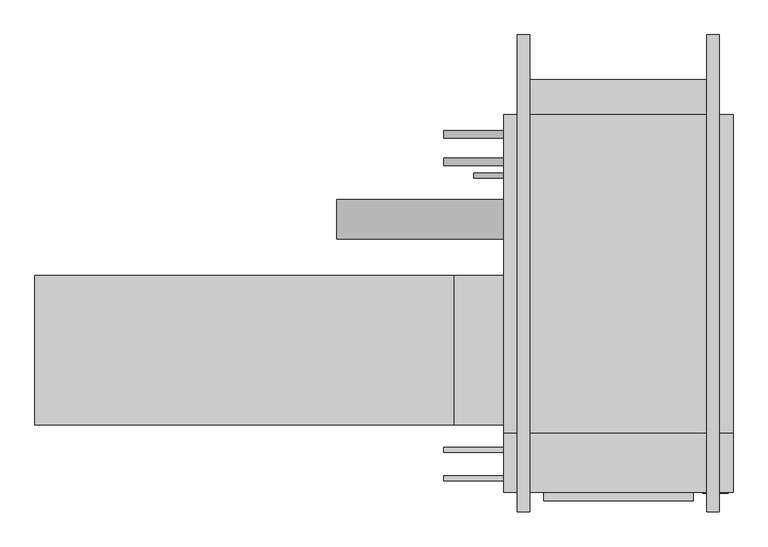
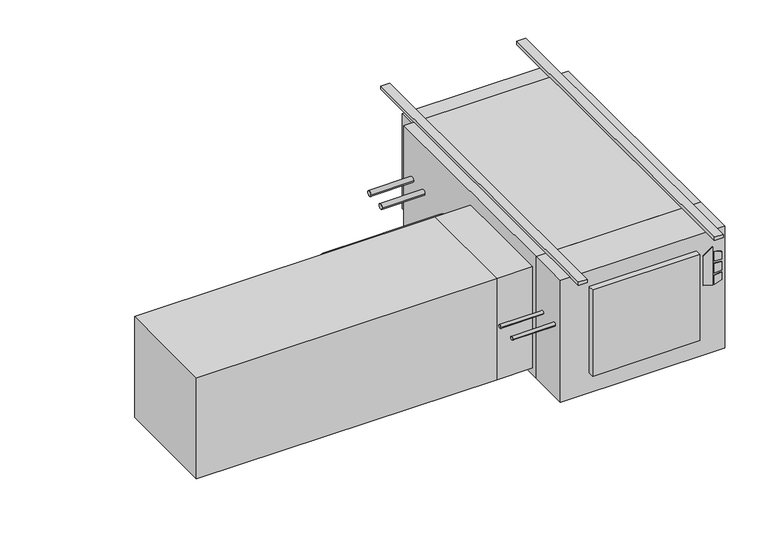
"""IFC4 building model written with IfcOpenShell, lengths in millimetres: proxy geometry."""

from ifc_helpers import new_model, si_unit, point, frame, frame_2d, origin, origin_with_axes, place, context, project, spatial, polyline, circle_curve, trimmed, segment, composite_curve, outline, extrude, source, transform, mapped, element, save


def mechanical_equipment_86c30c7f(model_context):
    return source(origin(), model_context, "Body", "SweptSolid", [
        extrude(outline(polyline([(-193.2519297, 366.7868862), (-203.2, 398.9602728), (-61.0290756, 398.9602728), (-84.0510817, 366.7868862), (-193.2519297, 366.7868862)])), frame((0.0, -797.052, 0.0), z_axis=(0.0, 1.0, 0.0), x_axis=(0.0, 0.0, 1.0)), (0.0, 0.0, 1.0), 3.175),
        extrude(outline(polyline([(-114.2526443, 405.7186058), (-117.4550368, 431.8), (-88.2261958, 431.8), (-80.1617807, 405.7186058), (-114.2526443, 405.7186058)])), frame((0.0, -797.052, 0.0), z_axis=(0.0, 1.0, 0.0), x_axis=(0.0, 0.0, 1.0)), (0.0, 0.0, 1.0), 3.175),
        extrude(outline(polyline([(-166.1161712, 431.8), (-169.7816721, 405.7186058), (-203.2, 405.7186058), (-194.5657628, 431.8), (-166.1161712, 431.8)])), frame((0.0, -797.052, 0.0), z_axis=(0.0, 1.0, 0.0), x_axis=(0.0, 0.0, 1.0)), (0.0, 0.0, 1.0), 3.175),
        extrude(outline(polyline([(-126.8010097, 431.8), (-124.5191834, 405.7186058), (-160.4567319, 405.7186058), (-157.7154669, 431.8), (-126.8010097, 431.8)])), frame((0.0, -797.052, 0.0), z_axis=(0.0, 1.0, 0.0), x_axis=(0.0, 0.0, 1.0)), (0.0, 0.0, 1.0), 3.175),
        extrude(outline(polyline([(444.5, -793.877), (-139.7, -793.877), (-139.7, -644.525), (444.5, -644.525), (444.5, -793.877)])), frame((0.0, 0.0, -457.2), z_axis=(0.0, 0.0, 1.0), x_axis=(1.0, 0.0, 0.0)), (0.0, 0.0, 1.0), 457.2),
        extrude(outline(polyline([(342.9, -816.229), (-38.1, -816.229), (-38.1, -793.877), (342.9, -793.877), (342.9, -816.229)])), frame((0.0, 0.0, -381.0), z_axis=(0.0, 0.0, 1.0), x_axis=(1.0, 0.0, 0.0)), (0.0, 0.0, 1.0), 323.85),
        extrude(outline(polyline([(-1333.5, -622.3), (-1333.5, -241.3), (-266.7, -241.3), (-266.7, -622.3), (-1333.5, -622.3)])), frame((0.0, 0.0, -431.8), z_axis=(0.0, 0.0, 1.0), x_axis=(1.0, 0.0, 0.0)), (0.0, 0.0, 1.0), 381.0),
        extrude(outline(polyline([(-139.7, -241.3), (-139.7, -622.3), (-266.7, -622.3), (-266.7, -241.3), (-139.7, -241.3)])), frame((0.0, 0.0, -431.8), z_axis=(0.0, 0.0, 1.0), x_axis=(1.0, 0.0, 0.0)), (0.0, 0.0, 1.0), 381.0),
        extrude(outline(composite_curve([segment(trimmed(circle_curve(frame_2d((-758.825, -184.15)), 6.35), [point((-765.175, -184.15))], [point((-752.475, -184.15))], False, "CARTESIAN"), True, "CONTINUOUS"), segment(trimmed(circle_curve(frame_2d((-758.825, -184.15)), 6.35), [point((-752.475, -184.15))], [point((-765.175, -184.15))], False, "CARTESIAN"), True, "CONTINUOUS")], self_intersect=False)), frame((-292.1, 0.0, 0.0), z_axis=(1.0, 0.0, 0.0), x_axis=(0.0, 1.0, 0.0)), (0.0, 0.0, 1.0), 152.4),
        extrude(outline(composite_curve([segment(trimmed(circle_curve(frame_2d((-685.8, -184.15)), 6.35), [point((-692.15, -184.15))], [point((-679.45, -184.15))], False, "CARTESIAN"), True, "CONTINUOUS"), segment(trimmed(circle_curve(frame_2d((-685.8, -184.15)), 6.35), [point((-679.45, -184.15))], [point((-692.15, -184.15))], False, "CARTESIAN"), True, "CONTINUOUS")], self_intersect=False)), frame((-292.1, 0.0, 0.0), z_axis=(1.0, 0.0, 0.0), x_axis=(0.0, 1.0, 0.0)), (0.0, 0.0, 1.0), 152.4),
        extrude(outline(composite_curve([segment(trimmed(circle_curve(frame_2d((-98.4896516, -228.6360165)), 50.8), [point((-149.2896516, -228.6360165))], [point((-47.6896516, -228.6360165))], False, "CARTESIAN"), True, "CONTINUOUS"), segment(trimmed(circle_curve(frame_2d((-98.4896516, -228.6360165)), 50.8), [point((-47.6896516, -228.6360165))], [point((-149.2896516, -228.6360165))], False, "CARTESIAN"), True, "CONTINUOUS")], self_intersect=False)), frame((-565.15, 0.0, 0.0), z_axis=(1.0, 0.0, 0.0), x_axis=(0.0, 1.0, 0.0)), (0.0, 0.0, 1.0), 425.45),
        extrude(outline(composite_curve([segment(trimmed(circle_curve(frame_2d((47.625, -177.8)), 9.525), [point((38.1, -177.8))], [point((57.15, -177.8))], False, "CARTESIAN"), True, "CONTINUOUS"), segment(trimmed(circle_curve(frame_2d((47.625, -177.8)), 9.525), [point((57.15, -177.8))], [point((38.1, -177.8))], False, "CARTESIAN"), True, "CONTINUOUS")], self_intersect=False)), frame((-292.1, 0.0, 0.0), z_axis=(1.0, 0.0, 0.0), x_axis=(0.0, 1.0, 0.0)), (0.0, 0.0, 1.0), 152.4),
        extrude(outline(composite_curve([segment(trimmed(circle_curve(frame_2d((117.475, -171.45)), 9.525), [point((107.95, -171.45))], [point((127.0, -171.45))], False, "CARTESIAN"), True, "CONTINUOUS"), segment(trimmed(circle_curve(frame_2d((117.475, -171.45)), 9.525), [point((127.0, -171.45))], [point((107.95, -171.45))], False, "CARTESIAN"), True, "CONTINUOUS")], self_intersect=False)), frame((-292.1, 0.0, 0.0), z_axis=(1.0, 0.0, 0.0), x_axis=(0.0, 1.0, 0.0)), (0.0, 0.0, 1.0), 152.4),
        extrude(outline(composite_curve([segment(trimmed(circle_curve(frame_2d((12.7, -409.575)), 6.35), [point((6.35, -409.575))], [point((19.05, -409.575))], False, "CARTESIAN"), True, "CONTINUOUS"), segment(trimmed(circle_curve(frame_2d((12.7, -409.575)), 6.35), [point((19.05, -409.575))], [point((6.35, -409.575))], False, "CARTESIAN"), True, "CONTINUOUS")], self_intersect=False)), frame((-215.9, 0.0, 0.0), z_axis=(1.0, 0.0, 0.0), x_axis=(0.0, 1.0, 0.0)), (0.0, 0.0, 1.0), 76.2),
        extrude(outline(polyline([(444.5, 168.275), (444.5, -644.525), (-139.7, -644.525), (-139.7, 168.275), (444.5, 168.275)])), frame((0.0, 0.0, -457.2), z_axis=(0.0, 0.0, 1.0), x_axis=(1.0, 0.0, 0.0)), (0.0, 0.0, 1.0), 457.2),
        extrude(outline(polyline([(-95.25, 257.175), (400.05, 257.175), (400.05, 168.275), (-95.25, 168.275), (-95.25, 257.175)])), frame((0.0, 0.0, -381.0), z_axis=(0.0, 0.0, 1.0), x_axis=(1.0, 0.0, 0.0)), (0.0, 0.0, 1.0), 355.6),
        extrude(outline(polyline([(-73.025, 371.475), (-73.025, -844.677), (-104.775, -844.677), (-104.775, 371.475), (-73.025, 371.475)])), origin_with_axes(), (0.0, 0.0, 1.0), 12.7),
        extrude(outline(polyline([(409.575, 371.475), (409.575, -844.677), (377.825, -844.677), (377.825, 371.475), (409.575, 371.475)])), origin_with_axes(), (0.0, 0.0, 1.0), 12.7),
    ])


if __name__ == "__main__":
    model = new_model("IFC4")
    model_context = context("Model", 3, world=origin())
    ifc_project = project(units=[si_unit("LENGTHUNIT", "METRE", prefix="MILLI")], contexts=[model_context])
    site = spatial("IfcSite", under=ifc_project)
    building = spatial("IfcBuilding", under=site)
    placement = place(None, origin())
    mechanical_equipment_shape = mechanical_equipment_86c30c7f(model_context)
    element("IfcBuildingElementProxy", 1, Name="High_Capacity_Horizontal_Cabinet_Fan_Coil_Unit_-_HTY_-_IEC_-_4-Pipe_WO-Attenuator_LH Side_2022 : Size 06 - 115v/60Hz/1Ph - 4/1 Coil - 4\" AirIn", ObjectType="High_Capacity_Horizontal_Cabinet_Fan_Coil_Unit_-_HTY_-_IEC_-_4-Pipe_WO-Attenuator_LH Side_2022 : Size 06 - 115v/60Hz/1Ph - 4/1 Coil - 4\" AirIn", at=placement, inside=building, context=model_context, shape_type="MappedRepresentation", body=[
        mapped(mechanical_equipment_shape, transform((0.0, 0.0, 0.0), x_axis=(1.0, 0.0, 0.0), y_axis=(0.0, 1.0, 0.0), z_axis=(0.0, 0.0, 1.0))),
    ])
    save(model, "model.ifc")
